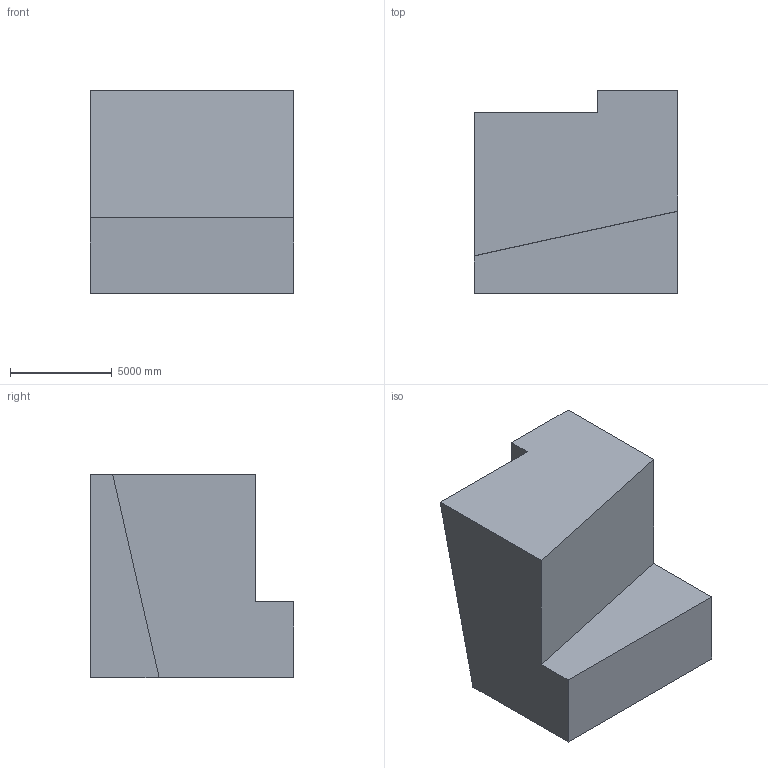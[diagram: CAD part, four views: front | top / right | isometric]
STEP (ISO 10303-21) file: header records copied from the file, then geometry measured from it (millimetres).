
FILE_DESCRIPTION (( 'STEP AP203' ), '1' );
FILE_NAME ('1188.STEP', '2022-08-18T13:06:27', ( 'user' ), ( '' ), 'SwSTEP 2.0', 'SolidWorks 2021', '' );
FILE_SCHEMA (( 'CONFIG_CONTROL_DESIGN' ));
Length unit declared in the file: centimetre
Products named in the file (1): 1188
Bounding box: 10000 x 10000 x 10000 mm (x, y, z)
Volume: 678964431607.3 mm3; surface area: 538840424.3 mm2
Topology: 1 solids, 1 shells, 10 faces, 24 edges, 16 vertices
Faces by surface type: plane 10
Entity records: 365 total; most frequent: CARTESIAN_POINT 51, ORIENTED_EDGE 48, DIRECTION 46, LINE 24, EDGE_CURVE 24, VECTOR 24, VERTEX_POINT 16, AXIS2_PLACEMENT_3D 11
